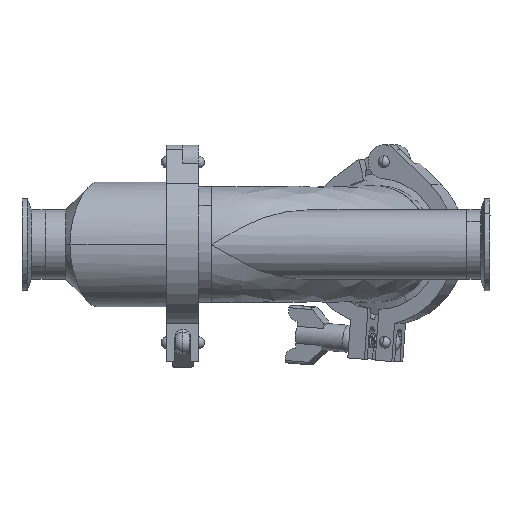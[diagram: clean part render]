
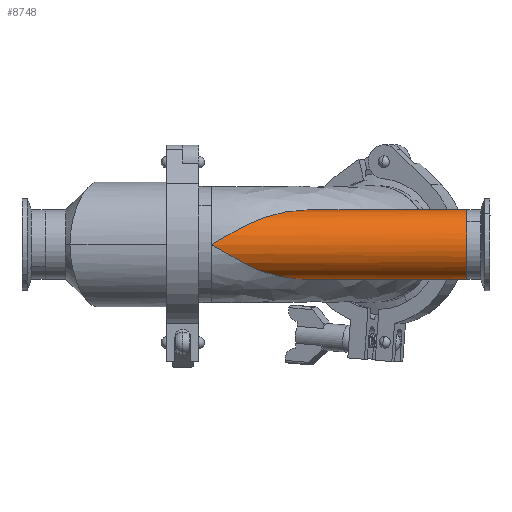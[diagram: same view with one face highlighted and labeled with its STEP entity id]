
A CAD part, front view. The second image highlights one B-rep face of the part: STEP entity #8748.
In plain terms, the highlighted cylindrical face has radius 19.05 mm (diameter 38.1 mm), a partial arc.
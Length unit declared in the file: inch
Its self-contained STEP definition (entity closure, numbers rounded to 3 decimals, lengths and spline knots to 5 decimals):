
#15 = CIRCLE ( 'NONE', #13094, 0.75 ) ;
#151 = CARTESIAN_POINT ( 'NONE',  ( 4.74811, 3.85324, 5.58968 ) ) ;
#851 = EDGE_LOOP ( 'NONE', ( #15861, #31506, #22722, #18631, #18559 ) ) ;
#1195 = CARTESIAN_POINT ( 'NONE',  ( 3.57916, 3.30319, 6.85392 ) ) ;
#1306 = CARTESIAN_POINT ( 'NONE',  ( 2.64798, 3.09975, 6.34823 ) ) ;
#1369 = CARTESIAN_POINT ( 'NONE',  ( 2.80372, 3.10616, 6.23855 ) ) ;
#1470 = CARTESIAN_POINT ( 'NONE',  ( 3.62465, 3.32863, 5.79969 ) ) ;
#3733 = CARTESIAN_POINT ( 'NONE',  ( 3.44716, 3.25368, 6.79564 ) ) ;
#3783 = CARTESIAN_POINT ( 'NONE',  ( 2.62551, 3.09973, 6.33616 ) ) ;
#3831 = CARTESIAN_POINT ( 'NONE',  ( 2.62551, 3.09973, 6.33616 ) ) ;
#3888 = CARTESIAN_POINT ( 'NONE',  ( 2.97851, 3.12527, 6.13905 ) ) ;
#3993 = CARTESIAN_POINT ( 'NONE',  ( 3.84505, 3.42303, 5.72111 ) ) ;
#5909 = DIRECTION ( 'NONE',  ( 1., 0., 0. ) ) ;
#6138 = CARTESIAN_POINT ( 'NONE',  ( 4.56481, 3.75563, 7.0841 ) ) ;
#6241 = CARTESIAN_POINT ( 'NONE',  ( 3.23134, 3.18248, 6.68623 ) ) ;
#6412 = CARTESIAN_POINT ( 'NONE',  ( 3.19271, 3.17302, 6.0152 ) ) ;
#6521 = CARTESIAN_POINT ( 'NONE',  ( 4.11401, 3.54442, 5.65312 ) ) ;
#6610 = VERTEX_POINT ( 'NONE', #151 ) ;
#6799 = CARTESIAN_POINT ( 'NONE',  ( -19682.41386, 3.84621, 7.08967 ) ) ;
#6968 = LINE ( 'NONE', #16103, #15220 ) ;
#8181 = EDGE_CURVE ( 'NONE', #30332, #16856, #15, .T. ) ;
#8662 = CARTESIAN_POINT ( 'NONE',  ( 4.38302, 3.66594, 7.06823 ) ) ;
#8748 = ADVANCED_FACE ( 'NONE', ( #19597 ), #18815, .T. ) ;
#8771 = CARTESIAN_POINT ( 'NONE',  ( 2.97584, 3.12443, 6.53756 ) ) ;
#8928 = CARTESIAN_POINT ( 'NONE',  ( 3.32086, 3.21211, 5.94383 ) ) ;
#9033 = CARTESIAN_POINT ( 'NONE',  ( 4.29578, 3.63005, 5.62221 ) ) ;
#9590 = B_SPLINE_CURVE_WITH_KNOTS ( 'NONE', 3,
 ( #3783, #18802, #11346, #28893, #13880, #31415, #16384, #1369, #18909, #3888, #21428, #6412, #23955, #8928, #26476, #11456, #29008, #13986, #31525, #16499, #1470, #19023, #3993, #21535, #6521, #24065, #9033, #26575, #11573, #29109, #14087, #31632 ),
 .UNSPECIFIED., .F., .F.,
 ( 4, 2, 1, 1, 2, 2, 2, 2, 2, 2, 2, 2, 2, 2, 2, 2, 4 ),
 ( -0.00008, 0.0004, 0.00088, 0.00184, 0.00376, 0.0076, 0.01527, 0.01911, 0.02295, 0.02487, 0.02679, 0.03063, 0.0383, 0.04598, 0.04982, 0.05366, 0.06134 ),
 .UNSPECIFIED. ) ;
#10756 = DIRECTION ( 'NONE',  ( -1., 0., 0. ) ) ;
#10955 = DIRECTION ( 'NONE',  ( 0., 0.005, -1. ) ) ;
#11184 = CARTESIAN_POINT ( 'NONE',  ( 4.11334, 3.53612, 7.02251 ) ) ;
#11287 = CARTESIAN_POINT ( 'NONE',  ( 2.80294, 3.10542, 6.4353 ) ) ;
#11321 = LINE ( 'NONE', #6799, #22287 ) ;
#11346 = CARTESIAN_POINT ( 'NONE',  ( 2.63672, 3.09978, 6.33016 ) ) ;
#11456 = CARTESIAN_POINT ( 'NONE',  ( 3.42854, 3.25079, 5.88806 ) ) ;
#11573 = CARTESIAN_POINT ( 'NONE',  ( 4.43201, 3.69602, 5.60524 ) ) ;
#12181 = EDGE_CURVE ( 'NONE', #24354, #6610, #9590, .T. ) ;
#12221 = VERTEX_POINT ( 'NONE', #24168 ) ;
#12796 = B_SPLINE_CURVE_WITH_KNOTS ( 'NONE', 3,
 ( #23465, #13598, #21149, #6138, #23682, #8662, #26197, #11184, #28721, #13712, #31248, #16220, #1195, #18743, #3733, #21263, #6241, #23791, #8771, #26311, #11287, #28839, #13816, #31360, #16327, #1306, #18848, #3831 ),
 .UNSPECIFIED., .F., .F.,
 ( 4, 2, 2, 2, 2, 2, 2, 2, 2, 2, 2, 2, 2, 4 ),
 ( 0.15912, 0.16298, 0.16684, 0.17455, 0.18226, 0.18998, 0.19383, 0.19769, 0.2054, 0.21312, 0.21697, 0.2189, 0.21987, 0.22083 ),
 .UNSPECIFIED. ) ;
#13094 = AXIS2_PLACEMENT_3D ( 'NONE', #25784, #10756, #28299 ) ;
#13598 = CARTESIAN_POINT ( 'NONE',  ( 4.70143, 3.82356, 7.08956 ) ) ;
#13712 = CARTESIAN_POINT ( 'NONE',  ( 3.84584, 3.41392, 6.9519 ) ) ;
#13816 = CARTESIAN_POINT ( 'NONE',  ( 2.71489, 3.101, 6.38509 ) ) ;
#13880 = CARTESIAN_POINT ( 'NONE',  ( 2.66479, 3.10009, 6.31506 ) ) ;
#13986 = CARTESIAN_POINT ( 'NONE',  ( 3.49374, 3.27581, 5.85666 ) ) ;
#14087 = CARTESIAN_POINT ( 'NONE',  ( 4.658, 3.80797, 5.58947 ) ) ;
#15220 = VECTOR ( 'NONE', #21152, 39.37008 ) ;
#15861 = ORIENTED_EDGE ( 'NONE', *, *, #29341, .F. ) ;
#16103 = CARTESIAN_POINT ( 'NONE',  ( -19682.41386, 3.85324, 5.58968 ) ) ;
#16220 = CARTESIAN_POINT ( 'NONE',  ( 3.62371, 3.32082, 6.87201 ) ) ;
#16327 = CARTESIAN_POINT ( 'NONE',  ( 2.67037, 3.09999, 6.36044 ) ) ;
#16384 = CARTESIAN_POINT ( 'NONE',  ( 2.7373, 3.10238, 6.27544 ) ) ;
#16499 = CARTESIAN_POINT ( 'NONE',  ( 3.58091, 3.31056, 5.81767 ) ) ;
#16856 = VERTEX_POINT ( 'NONE', #30370 ) ;
#18559 = ORIENTED_EDGE ( 'NONE', *, *, #8181, .T. ) ;
#18631 = ORIENTED_EDGE ( 'NONE', *, *, #30023, .T. ) ;
#18743 = CARTESIAN_POINT ( 'NONE',  ( 3.49091, 3.26964, 6.81574 ) ) ;
#18802 = CARTESIAN_POINT ( 'NONE',  ( 2.63106, 3.09975, 6.33319 ) ) ;
#18815 = CYLINDRICAL_SURFACE ( 'NONE', #27602, 0.75 ) ;
#18848 = CARTESIAN_POINT ( 'NONE',  ( 2.63667, 3.09971, 6.34213 ) ) ;
#18909 = CARTESIAN_POINT ( 'NONE',  ( 2.84765, 3.10994, 6.21374 ) ) ;
#19023 = CARTESIAN_POINT ( 'NONE',  ( 3.75644, 3.3842, 5.74953 ) ) ;
#19491 = CARTESIAN_POINT ( 'NONE',  ( 8.12551, 3.85324, 5.58968 ) ) ;
#19597 = FACE_OUTER_BOUND ( 'NONE', #851, .T. ) ;
#21149 = CARTESIAN_POINT ( 'NONE',  ( 4.65597, 3.80091, 7.08843 ) ) ;
#21152 = DIRECTION ( 'NONE',  ( 1., 0., 0. ) ) ;
#21263 = CARTESIAN_POINT ( 'NONE',  ( 3.31687, 3.20867, 6.73238 ) ) ;
#21428 = CARTESIAN_POINT ( 'NONE',  ( 3.06446, 3.1409, 6.0888 ) ) ;
#21535 = CARTESIAN_POINT ( 'NONE',  ( 4.02384, 3.50314, 5.67292 ) ) ;
#21821 = DIRECTION ( 'NONE',  ( 1., 0., 0. ) ) ;
#22287 = VECTOR ( 'NONE', #21821, 39.37008 ) ;
#22722 = ORIENTED_EDGE ( 'NONE', *, *, #12181, .T. ) ;
#23464 = CARTESIAN_POINT ( 'NONE',  ( -19682.41386, 3.84973, 6.33967 ) ) ;
#23465 = CARTESIAN_POINT ( 'NONE',  ( 4.74679, 3.84621, 7.08967 ) ) ;
#23682 = CARTESIAN_POINT ( 'NONE',  ( 4.51919, 3.73305, 7.08089 ) ) ;
#23791 = CARTESIAN_POINT ( 'NONE',  ( 3.06084, 3.14032, 6.58881 ) ) ;
#23955 = CARTESIAN_POINT ( 'NONE',  ( 3.23535, 3.18515, 5.99099 ) ) ;
#24065 = CARTESIAN_POINT ( 'NONE',  ( 4.25017, 3.60834, 5.62922 ) ) ;
#24168 = CARTESIAN_POINT ( 'NONE',  ( 4.74679, 3.84621, 7.08967 ) ) ;
#24354 = VERTEX_POINT ( 'NONE', #27493 ) ;
#25631 = EDGE_CURVE ( 'NONE', #12221, #24354, #12796, .T. ) ;
#25784 = CARTESIAN_POINT ( 'NONE',  ( 8.12551, 3.84973, 6.33967 ) ) ;
#26197 = CARTESIAN_POINT ( 'NONE',  ( 4.29285, 3.62192, 7.05572 ) ) ;
#26311 = CARTESIAN_POINT ( 'NONE',  ( 2.84641, 3.10912, 6.46083 ) ) ;
#26476 = CARTESIAN_POINT ( 'NONE',  ( 3.36371, 3.22694, 5.9209 ) ) ;
#26575 = CARTESIAN_POINT ( 'NONE',  ( 4.38667, 3.67389, 5.61022 ) ) ;
#27493 = CARTESIAN_POINT ( 'NONE',  ( 2.62551, 3.09973, 6.33616 ) ) ;
#27602 = AXIS2_PLACEMENT_3D ( 'NONE', #23464, #5909, #10955 ) ;
#28299 = DIRECTION ( 'NONE',  ( 0., -0.005, 1. ) ) ;
#28721 = CARTESIAN_POINT ( 'NONE',  ( 4.02401, 3.49432, 7.00181 ) ) ;
#28839 = CARTESIAN_POINT ( 'NONE',  ( 2.737, 3.10186, 6.39757 ) ) ;
#28893 = CARTESIAN_POINT ( 'NONE',  ( 2.64796, 3.09988, 6.32412 ) ) ;
#29008 = CARTESIAN_POINT ( 'NONE',  ( 3.45027, 3.25902, 5.87735 ) ) ;
#29109 = CARTESIAN_POINT ( 'NONE',  ( 4.56778, 3.76285, 5.59335 ) ) ;
#29341 = EDGE_CURVE ( 'NONE', #12221, #16856, #11321, .T. ) ;
#30023 = EDGE_CURVE ( 'NONE', #6610, #30332, #6968, .T. ) ;
#30332 = VERTEX_POINT ( 'NONE', #19491 ) ;
#30370 = CARTESIAN_POINT ( 'NONE',  ( 8.12551, 3.84621, 7.08967 ) ) ;
#31248 = CARTESIAN_POINT ( 'NONE',  ( 3.75699, 3.37532, 6.92268 ) ) ;
#31360 = CARTESIAN_POINT ( 'NONE',  ( 2.68153, 3.10018, 6.36657 ) ) ;
#31415 = CARTESIAN_POINT ( 'NONE',  ( 2.70395, 3.10096, 6.2938 ) ) ;
#31506 = ORIENTED_EDGE ( 'NONE', *, *, #25631, .T. ) ;
#31525 = CARTESIAN_POINT ( 'NONE',  ( 3.51551, 3.28438, 5.84667 ) ) ;
#31632 = CARTESIAN_POINT ( 'NONE',  ( 4.74811, 3.85324, 5.58968 ) ) ;
